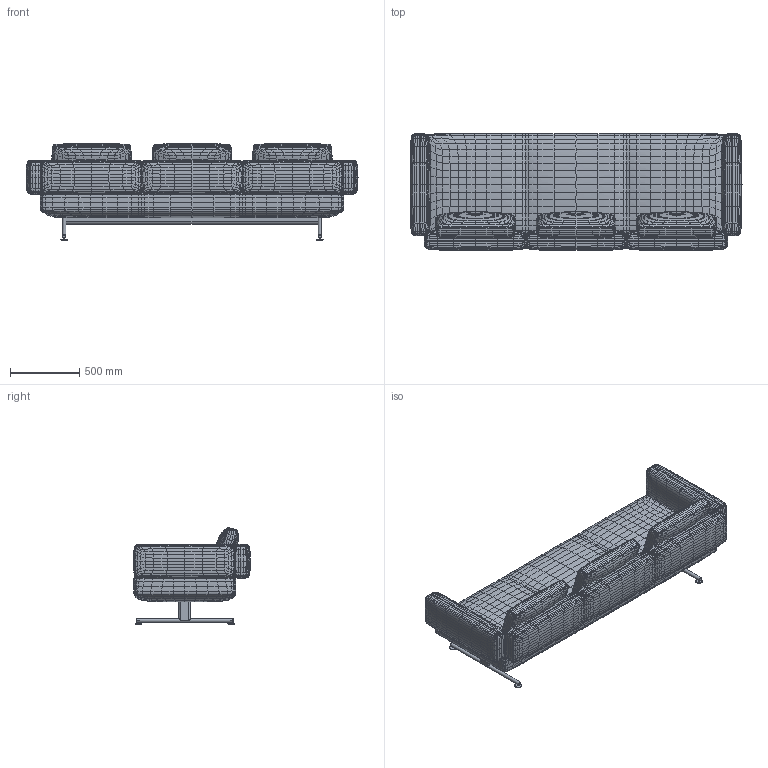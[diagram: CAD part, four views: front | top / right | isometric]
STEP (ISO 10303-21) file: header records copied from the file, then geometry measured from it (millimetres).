
FILE_DESCRIPTION(/* description */ (''),/* implementation_level */ '2;1');
FILE_NAME(/* name */ 'c:\worker\convert-fusion-r07\tmp\job-1\4\output\files\374e45ba-4640-4dac-a15c-4c9db4776609\12bdbda8-01c0-4dff-b839-1e7b7946569d.stp',/* time_stamp */ '2021-10-21T11:22:12+00:00',/* author */ (''),/* organization */ (''),/* preprocessor_version */ 'ST-DEVELOPER v18.1',/* originating_system */ 'Autodesk Translation Framework v10.10.0.1391',/* authorisation */ '');
FILE_SCHEMA (('AUTOMOTIVE_DESIGN { 1 0 10303 214 3 1 1 }'));
Products named in the file (1): TRIPLAZA WEB
Bounding box: 2399.9 x 846.02 x 695.3 mm (x, y, z)
Volume: 396272447.5 mm3; surface area: 9276236.7 mm2
Topology: 29 solids, 34 shells, 8249 faces, 17314 edges, 9026 vertices
Faces by surface type: bspline 8143, plane 83, cylinder 23
Full cylindrical faces by diameter (mm): 10 x12, 25 x2, 50 x4
Entity records: 669423 total; most frequent: CARTESIAN_POINT 556156, ORIENTED_EDGE 34356, EDGE_CURVE 17233, B_SPLINE_CURVE_WITH_KNOTS 16373, VERTEX_POINT 9026, EDGE_LOOP 8253, FACE_OUTER_BOUND 8249, ADVANCED_FACE 8249
